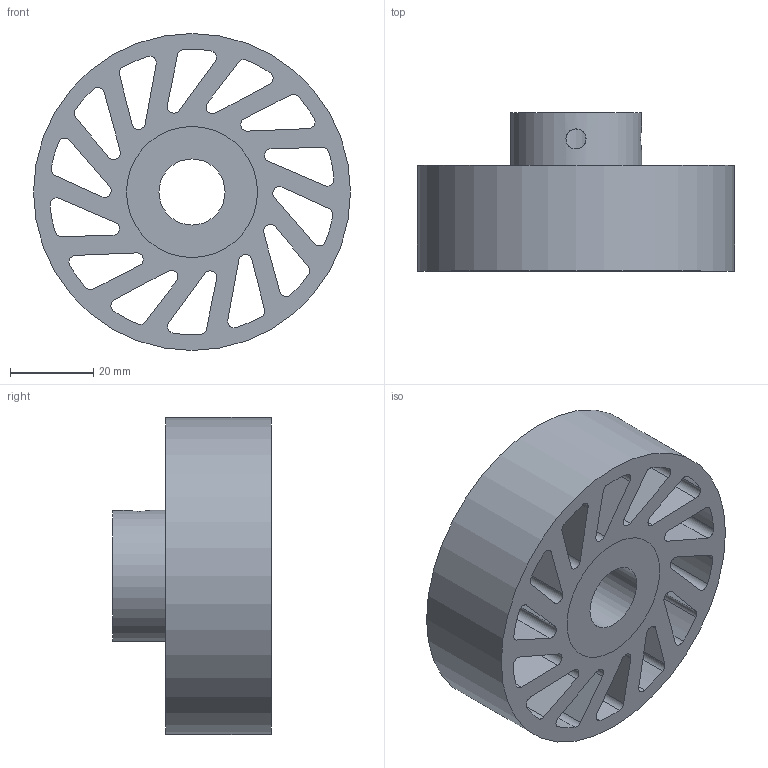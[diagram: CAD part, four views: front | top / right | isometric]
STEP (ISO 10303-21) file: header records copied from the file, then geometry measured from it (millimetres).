
FILE_DESCRIPTION(/* description */ (''),/* implementation_level */ '2;1');
FILE_NAME(/* name */ 'NCW-670-DUR-CLR.stp',/* time_stamp */ '2023-02-01T16:36:34-06:00',/* author */ ('AG'),/* organization */ ('Meridian Laboratory'),/* preprocessor_version */ 'ST-DEVELOPER v18.1',/* originating_system */ 'Autodesk Inventor 2022',/* authorisation */ '');
FILE_SCHEMA (('AUTOMOTIVE_DESIGN { 1 0 10303 214 3 1 1 }'));
Length unit declared in the file: inch
Products named in the file (1): NCW-640-DUR-CLR
Bounding box: 76.2 x 38.1 x 76.2 mm (x, y, z)
Volume: 82540.2 mm3; surface area: 35749.4 mm2
Topology: 2 solids, 2 shells, 94 faces, 274 edges, 184 vertices
Faces by surface type: cylinder 62, plane 32
Full cylindrical faces by diameter (mm): 4.826 x2, 15.9 x1, 31.496 x2, 76.2 x1
Entity records: 3512 total; most frequent: CARTESIAN_POINT 689, DIRECTION 576, ORIENTED_EDGE 548, EDGE_CURVE 274, AXIS2_PLACEMENT_3D 215, VERTEX_POINT 184, LINE 146, VECTOR 146
